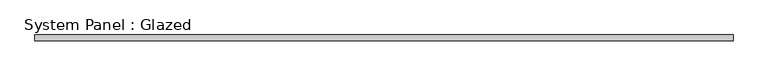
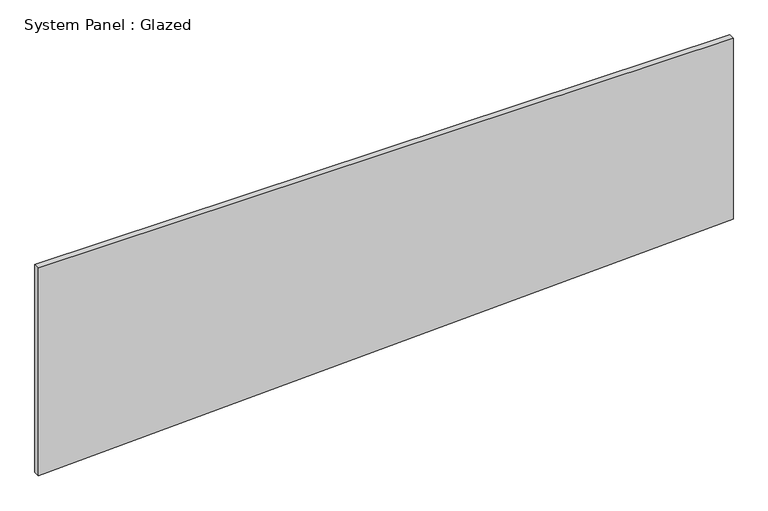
"""IFC4 building model written with IfcOpenShell, lengths in millimetres: plate geometry, System Panel : Glazed."""

import ifcopenshell
import ifcopenshell.guid

model = None  # the IFC model being written
_history = None  # IfcOwnerHistory: only IFC2X3 demands one
_inside = {}  # id of a spatial element -> (the spatial element, [elements in it])
_under = {}  # id of a project, library or spatial element -> (it, [spatial elements below it])
_declared = {}  # id of a project -> (the project, [libraries it declares])
_typed = {}  # id of a type object -> (the type object, [elements of that type])
_made_of = {}  # id of a material, layer set ... -> (it, [elements and type objects made of it])


def new_model(schema):
    """Start an empty IFC model of exactly this schema.

    Asked for "IFC4X3", IfcOpenShell would pick the latest addendum, in which some entities
    have other attributes; the version numbers below select the first issue.
    IFC2X3 requires an IfcOwnerHistory on every rooted entity: one is made here for all.
    """
    global model, _history
    if schema == "IFC4X3":
        model = ifcopenshell.file(schema_version=(4, 3, 0, 0))
    else:
        model = ifcopenshell.file(schema=schema)
    _inside.clear()
    _under.clear()
    _declared.clear()
    _typed.clear()
    _made_of.clear()
    _history = None
    if model.schema == "IFC2X3":
        org = make("IfcOrganization", Name="unknown")
        user = make(
            "IfcPersonAndOrganization",
            ThePerson=make("IfcPerson", FamilyName="unknown"),
            TheOrganization=org,
        )
        app = make(
            "IfcApplication",
            ApplicationDeveloper=org,
            Version="unknown",
            ApplicationFullName="unknown",
            ApplicationIdentifier="unknown",
        )
        _history = make(
            "IfcOwnerHistory",
            OwningUser=user,
            OwningApplication=app,
            ChangeAction="ADDED",
            CreationDate=0,
        )
    return model


def make(cls, **values):
    """One entity of the class cls with the attributes given. An attribute that is None is left unset."""
    return model.create_entity(
        cls, **{name: value for name, value in values.items() if value is not None}
    )


def rooted(cls, **values):
    """An entity with a GlobalId (a new one), such as an element, a storey or a relation."""
    return make(cls, GlobalId=ifcopenshell.guid.new(), OwnerHistory=_history, **values)


def si_unit(unit_type, name, prefix=None):
    """IfcSIUnit, for example si_unit("LENGTHUNIT", "METRE", prefix="MILLI")."""
    return make("IfcSIUnit", UnitType=unit_type, Prefix=prefix, Name=name)


def assignment(units):
    """IfcUnitAssignment: the units of a project."""
    return None if units is None else make("IfcUnitAssignment", Units=units)


def point(xyz):
    """IfcCartesianPoint."""
    return None if xyz is None else make("IfcCartesianPoint", Coordinates=xyz)


def direction(xyz):
    """IfcDirection."""
    return None if xyz is None else make("IfcDirection", DirectionRatios=xyz)


def frame(location, z_axis=None, x_axis=None):
    """IfcAxis2Placement3D, a coordinate frame: its origin and axes. An axis left out is left unset."""
    return make(
        "IfcAxis2Placement3D",
        Location=point(location),
        Axis=direction(z_axis),
        RefDirection=direction(x_axis),
    )


def origin():
    """The frame at (0, 0, 0) with its axes left unset."""
    return frame((0.0, 0.0, 0.0))


def place(relative_to, where):
    """IfcLocalPlacement: puts the frame where relative to a parent placement (None: the world)."""
    return make(
        "IfcLocalPlacement", PlacementRelTo=relative_to, RelativePlacement=where
    )


def context(
    kind, dimensions, precision=None, world=None, true_north=None, identifier=None
):
    """IfcGeometricRepresentationContext, for example the 3D "Model" context."""
    return make(
        "IfcGeometricRepresentationContext",
        ContextIdentifier=identifier,
        ContextType=kind,
        CoordinateSpaceDimension=dimensions,
        Precision=precision,
        WorldCoordinateSystem=world,
        TrueNorth=true_north,
    )


def project(units=None, contexts=None):
    """IfcProject with its units and contexts."""
    return rooted(
        "IfcProject",
        Name="project",
        RepresentationContexts=contexts,
        UnitsInContext=assignment(units),
    )


def spatial(cls, under=None, at=None, **own):
    """A site, building, storey or space (cls), placed at a placement, below another one or the project."""
    s = rooted(cls, ObjectPlacement=at, **own)
    if under is not None:
        _under.setdefault(under.id(), (under, []))[1].append(s)
    return s


def polyline(points):
    """IfcPolyline through the points."""
    return make("IfcPolyline", Points=[point(p) for p in points])


def outline(outer, holes=None, kind="AREA"):
    """IfcArbitraryClosedProfileDef: a profile drawn as a closed curve; with holes, ...WithVoids."""
    if holes is None:
        return make("IfcArbitraryClosedProfileDef", ProfileType=kind, OuterCurve=outer)
    return make(
        "IfcArbitraryProfileDefWithVoids",
        ProfileType=kind,
        OuterCurve=outer,
        InnerCurves=holes,
    )


def extrude(swept, where, along, depth):
    """IfcExtrudedAreaSolid: the profile swept, set in the frame where, extruded along a direction by depth."""
    return make(
        "IfcExtrudedAreaSolid",
        SweptArea=swept,
        Position=where,
        ExtrudedDirection=direction(along),
        Depth=depth,
    )


def shape(context_of_items, identifier, shape_type, items):
    """IfcShapeRepresentation: the items that make up one representation, for example the "Body"."""
    return make(
        "IfcShapeRepresentation",
        ContextOfItems=context_of_items,
        RepresentationIdentifier=identifier,
        RepresentationType=shape_type,
        Items=items,
    )


def source(mapping_origin, context_of_items, identifier, shape_type, items):
    """IfcRepresentationMap: a shape defined once, which mapped items show again and again."""
    return make(
        "IfcRepresentationMap",
        MappingOrigin=mapping_origin,
        MappedRepresentation=shape(context_of_items, identifier, shape_type, items),
    )


def transform(
    local_origin,
    x_axis=None,
    y_axis=None,
    z_axis=None,
    scale=None,
    scale2=None,
    scale3=None,
    uniform=True,
):
    """IfcCartesianTransformationOperator3D, or its non-uniform kind. x_axis, y_axis, z_axis: its Axis1, 2, 3."""
    if uniform:
        return make(
            "IfcCartesianTransformationOperator3D",
            Axis1=direction(x_axis),
            Axis2=direction(y_axis),
            LocalOrigin=point(local_origin),
            Scale=scale,
            Axis3=direction(z_axis),
        )
    return make(
        "IfcCartesianTransformationOperator3DnonUniform",
        Axis1=direction(x_axis),
        Axis2=direction(y_axis),
        LocalOrigin=point(local_origin),
        Scale=scale,
        Axis3=direction(z_axis),
        Scale2=scale2,
        Scale3=scale3,
    )


def mapped(mapping_source, mapping_target):
    """IfcMappedItem: shows the shape of a source again, moved by a transform."""
    return make(
        "IfcMappedItem", MappingSource=mapping_source, MappingTarget=mapping_target
    )


def made_of(thing, what):
    """Note that an element or type object is made of a material, layer set ...; save() writes the relation."""
    if what is not None:
        _made_of.setdefault(what.id(), (what, []))[1].append(thing)
    return thing


def element(
    cls,
    number,
    at=None,
    inside=None,
    cuts=None,
    type_object=None,
    material=None,
    context=None,
    identifier="Body",
    shape_type=None,
    held_by="IfcProductDefinitionShape",
    body=None,
    shapes=None,
    **own,
):
    """One element of the class cls, such as IfcWall. Its Tag is "e" and its number.

    at: its placement. inside: the storey or other place that contains it. cuts: it is an
    opening in that element (IfcRelVoidsElement). A single representation is given by context,
    identifier, shape_type and body (its items); several are given by shapes. held_by: the class
    of the entity that holds the representations. save() writes the other relations.
    """
    e = rooted(cls, Tag="e%d" % number, ObjectPlacement=at, **own)
    if body is not None:
        shapes = [shape(context, identifier, shape_type, body)]
    if shapes is not None:
        e.Representation = make(held_by, Representations=shapes)
    if inside is not None:
        _inside.setdefault(inside.id(), (inside, []))[1].append(e)
    if cuts is not None:
        rooted(
            "IfcRelVoidsElement", RelatingBuildingElement=cuts, RelatedOpeningElement=e
        )
    if type_object is not None:
        _typed.setdefault(type_object.id(), (type_object, []))[1].append(e)
    return made_of(e, material)


def aggregate(whole, parts):
    """IfcRelAggregates: a whole, such as a stair, and the parts it consists of."""
    return rooted("IfcRelAggregates", RelatingObject=whole, RelatedObjects=parts)


def save(model, path):
    """Write the relations noted so far, then the file.

    IfcRelAggregates (storeys below a building ...), IfcRelContainedInSpatialStructure (elements
    in a storey), IfcRelDefinesByType, IfcRelAssociatesMaterial and IfcRelDeclares: one each for
    every whole, place, type object, material and project.
    """
    for whole, parts in _under.values():
        aggregate(whole, parts)
    for where, things in _inside.values():
        rooted(
            "IfcRelContainedInSpatialStructure",
            RelatedElements=things,
            RelatingStructure=where,
        )
    for kind, things in _typed.values():
        rooted("IfcRelDefinesByType", RelatedObjects=things, RelatingType=kind)
    for what, things in _made_of.values():
        rooted("IfcRelAssociatesMaterial", RelatedObjects=things, RelatingMaterial=what)
    for by, libraries in _declared.values():
        rooted("IfcRelDeclares", RelatingContext=by, RelatedDefinitions=libraries)
    model.write(path)


def system_panel_glazed_ed74df88(model_context):
    return source(origin(), model_context, "Body", "SweptSolid", [
        extrude(outline(polyline([(0.0, -1504.95), (124.2720095, 1504.95), (952.3915672, 1504.95), (952.3915672, -1504.95), (0.0, -1504.95)])), frame((0.0, 19.05, 0.0), z_axis=(0.0, 1.0, 0.0), x_axis=(0.0, 0.0, 1.0)), (0.0, 0.0, 1.0), 25.4),
    ])


if __name__ == "__main__":
    model = new_model("IFC4")
    model_context = context("Model", 3, world=origin())
    ifc_project = project(units=[si_unit("LENGTHUNIT", "METRE", prefix="MILLI")], contexts=[model_context])
    site = spatial("IfcSite", under=ifc_project)
    building = spatial("IfcBuilding", under=site)
    placement = place(None, origin())
    system_panel_glazed_shape = system_panel_glazed_ed74df88(model_context)
    element("IfcPlate", 1, ObjectType="System Panel : Glazed", at=placement, inside=building, context=model_context, shape_type="MappedRepresentation", body=[
        mapped(system_panel_glazed_shape, transform((0.0, 0.0, 0.0), x_axis=(1.0, 0.0, 0.0), y_axis=(0.0, 1.0, 0.0), z_axis=(0.0, 0.0, 1.0))),
    ])
    save(model, "model.ifc")
